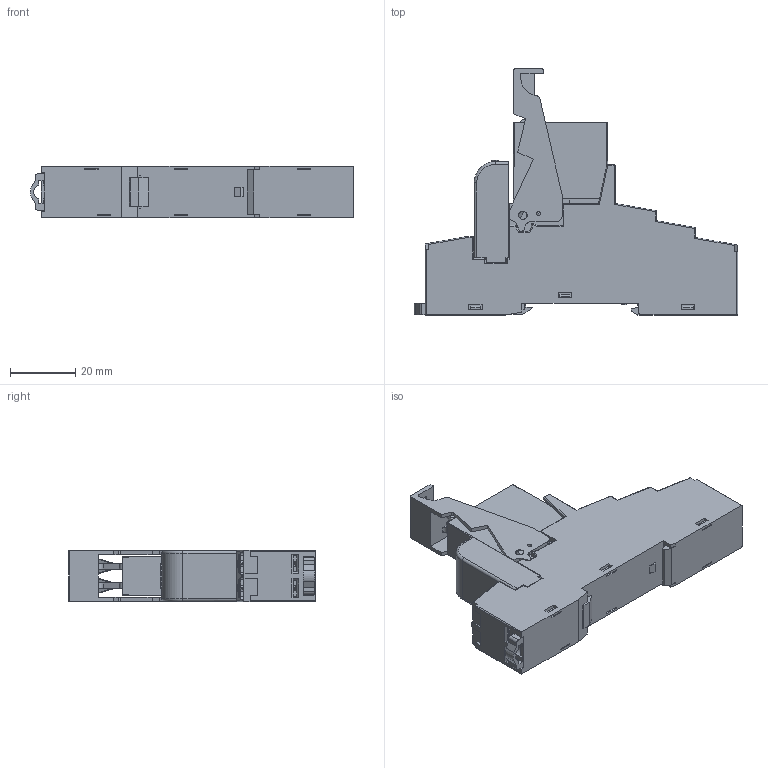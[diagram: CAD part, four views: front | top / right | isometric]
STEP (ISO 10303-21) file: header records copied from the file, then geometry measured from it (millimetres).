
FILE_DESCRIPTION(/* description */ ('Unknown'),/* implementation_level */ '2;1');
FILE_NAME(/* name */ '48P8',/* time_stamp */ '2016-02-12T15:38:56+01:00',/* author */ ('Unknown'),/* organization */ ('Unknown'),/* preprocessor_version */ 'ST-DEVELOPER v16',/* originating_system */ 'DEX',/* authorisation */ $);
FILE_SCHEMA (('AP203_CONFIGURATION_CONTROLLED_3D_DESIGN_OF_MECHANICAL_PARTS_AND_ASSEMBLIES_MIM_LF { 1 0 10303 203 3 1 4 }','AUTOMOTIVE_DESIGN {1 0 10303 214 3 1 1}'));
Products named in the file (7): 48P8; 95P5; Assieme 95.x5; Assieme 95.x5.asm0; None; 095913; 9902 modulino con led - CS
Assembly tree (6 placements, depth 4):
  48P8
    95P5
      Assieme 95.x5
        Assieme 95.x5.asm0
    None
    095913
    9902 modulino con led - CS
Bounding box: 98.9 x 75.26 x 15.8 mm (x, y, z)
Volume: 1794 mm3; surface area: 27790.8 mm2
Topology: 1 solids, 2691 shells, 3005 faces, 15798 edges, 15441 vertices
Faces by surface type: plane 2233, cylinder 589, torus 95, cone 70, sphere 16, bspline 2
Full cylindrical faces by diameter (mm): 1.2 x4, 1.3 x2, 2.2 x8, 2.5 x2, 2.6 x2
Entity records: 179652 total; most frequent: CARTESIAN_POINT 36191, DIRECTION 24058, ORIENTED_EDGE 16502, EDGE_CURVE 15762, VERTEX_POINT 15432, LINE 12928, VECTOR 12928, AXIS2_PLACEMENT_3D 5565
